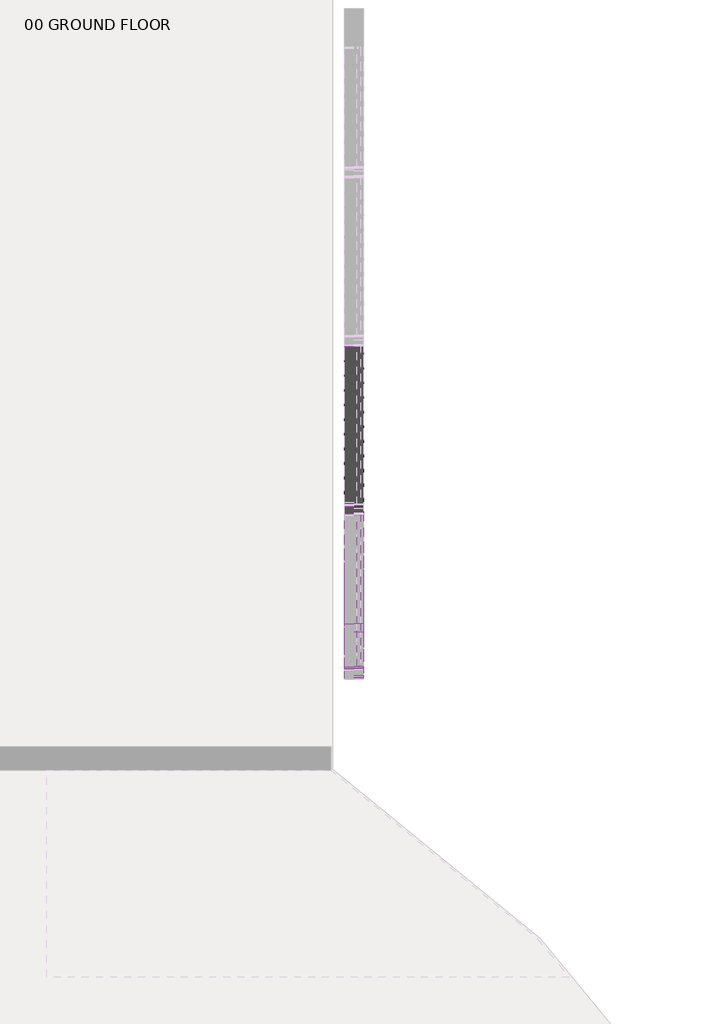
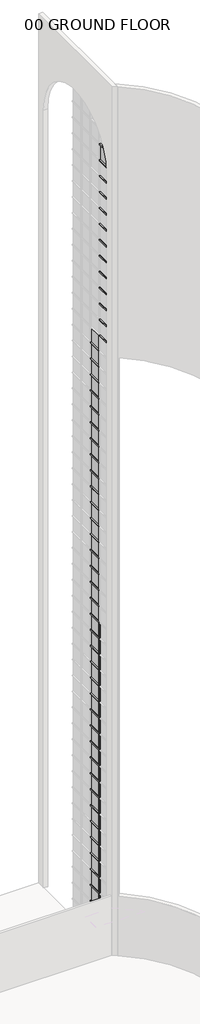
# One storey, part 25 of 33: 85 members, 39 plates.
"""IFC4 building model written with IfcOpenShell, lengths in millimetres."""

from ifc_helpers import new_model, si_unit, origin, place, context, project, spatial, transform, mapped, element, save
from components import member_c8ecf2e3, member_c70f70ef, member_d1490fb0, member_2b49869a, member_fd4924df, member_7098706b, member_828826df, member_4be9bcbc, member_914f3392, member_75074519, member_73c23c35, system_panel_glazed_c90b0923, system_panel_glazed_ba000c98, system_panel_glazed_06496461

model = new_model("IFC4")

# Units and contexts
model_context = context("Model", 3, world=origin())
ifc_project = project(units=[si_unit("LENGTHUNIT", "METRE", prefix="MILLI")], contexts=[model_context])

# Site, building, storey
site = spatial("IfcSite", under=ifc_project)
building = spatial("IfcBuilding", under=site)
storey = spatial("IfcBuildingStorey", under=building, Name="00 GROUND FLOOR", Elevation=0.0)

# Members
placement = place(None, origin())
member_shape = member_c8ecf2e3(model_context)
element("IfcMember", 1, ObjectType="Rectangular Mullion : 2.5\" x 5\" rectangular", at=placement, inside=storey, context=model_context, shape_type="MappedRepresentation", body=[
    mapped(member_shape, transform((44184.4050515, 26249.5392859, 0.0), x_axis=(0.0, 0.0, -1.0), y_axis=(-1.0, 0.0, 0.0), z_axis=(0.0, 1.0, 0.0))),
])
member_2_shape = member_c70f70ef(model_context)
element("IfcMember", 2, ObjectType="Rectangular Mullion : 2.5\" x 5\" rectangular", at=placement, inside=storey, context=model_context, shape_type="MappedRepresentation", body=[
    mapped(member_2_shape, transform((44184.4050515, 25212.675, 46329.6), x_axis=(0.0, 0.0, 1.0), y_axis=(-1.0, 0.0, 0.0), z_axis=(0.0, -1.0, 0.0))),
])
element("IfcMember", 3, ObjectType="Rectangular Mullion : 2.5\" x 5\" rectangular", at=placement, inside=storey, context=model_context, shape_type="MappedRepresentation", body=[
    mapped(member_2_shape, transform((44184.4050515, 25212.675, 47548.8), x_axis=(0.0, 0.0, 1.0), y_axis=(-1.0, 0.0, 0.0), z_axis=(0.0, -1.0, 0.0))),
])
element("IfcMember", 4, ObjectType="Rectangular Mullion : 2.5\" x 5\" rectangular", at=placement, inside=storey, context=model_context, shape_type="MappedRepresentation", body=[
    mapped(member_2_shape, transform((44184.4050515, 25212.675, 48768.0), x_axis=(0.0, 0.0, 1.0), y_axis=(-1.0, 0.0, 0.0), z_axis=(0.0, -1.0, 0.0))),
])
element("IfcMember", 5, ObjectType="Rectangular Mullion : 2.5\" x 5\" rectangular", at=placement, inside=storey, context=model_context, shape_type="MappedRepresentation", body=[
    mapped(member_2_shape, transform((44184.4050515, 25212.675, 49987.2), x_axis=(0.0, 0.0, 1.0), y_axis=(-1.0, 0.0, 0.0), z_axis=(0.0, -1.0, 0.0))),
])
element("IfcMember", 6, ObjectType="Rectangular Mullion : 2.5\" x 5\" rectangular", at=placement, inside=storey, context=model_context, shape_type="MappedRepresentation", body=[
    mapped(member_2_shape, transform((44184.4050515, 25212.675, 51206.4), x_axis=(0.0, 0.0, 1.0), y_axis=(-1.0, 0.0, 0.0), z_axis=(0.0, -1.0, 0.0))),
])
element("IfcMember", 7, ObjectType="Rectangular Mullion : 2.5\" x 5\" rectangular", at=placement, inside=storey, context=model_context, shape_type="MappedRepresentation", body=[
    mapped(member_2_shape, transform((44184.4050515, 25212.675, 52425.6), x_axis=(0.0, 0.0, 1.0), y_axis=(-1.0, 0.0, 0.0), z_axis=(0.0, -1.0, 0.0))),
])
element("IfcMember", 8, ObjectType="Rectangular Mullion : 2.5\" x 5\" rectangular", at=placement, inside=storey, context=model_context, shape_type="MappedRepresentation", body=[
    mapped(member_2_shape, transform((44184.4050515, 25212.675, 53644.8), x_axis=(0.0, 0.0, 1.0), y_axis=(-1.0, 0.0, 0.0), z_axis=(0.0, -1.0, 0.0))),
])
element("IfcMember", 9, ObjectType="Rectangular Mullion : 2.5\" x 5\" rectangular", at=placement, inside=storey, context=model_context, shape_type="MappedRepresentation", body=[
    mapped(member_2_shape, transform((44184.4050515, 25212.675, 54864.0), x_axis=(0.0, 0.0, 1.0), y_axis=(-1.0, 0.0, 0.0), z_axis=(0.0, -1.0, 0.0))),
])
element("IfcMember", 10, ObjectType="Rectangular Mullion : 2.5\" x 5\" rectangular", at=placement, inside=storey, context=model_context, shape_type="MappedRepresentation", body=[
    mapped(member_2_shape, transform((44184.4050515, 25212.675, 56083.2), x_axis=(0.0, 0.0, 1.0), y_axis=(-1.0, 0.0, 0.0), z_axis=(0.0, -1.0, 0.0))),
])
element("IfcMember", 11, ObjectType="Rectangular Mullion : 2.5\" x 5\" rectangular", at=placement, inside=storey, context=model_context, shape_type="MappedRepresentation", body=[
    mapped(member_2_shape, transform((44184.4050515, 25212.675, 57302.4), x_axis=(0.0, 0.0, 1.0), y_axis=(-1.0, 0.0, 0.0), z_axis=(0.0, -1.0, 0.0))),
])
element("IfcMember", 12, ObjectType="Rectangular Mullion : 2.5\" x 5\" rectangular", at=placement, inside=storey, context=model_context, shape_type="MappedRepresentation", body=[
    mapped(member_2_shape, transform((44184.4050515, 25212.675, 58521.6), x_axis=(0.0, 0.0, 1.0), y_axis=(-1.0, 0.0, 0.0), z_axis=(0.0, -1.0, 0.0))),
])
member_3_shape = member_d1490fb0(model_context)
element("IfcMember", 13, ObjectType="Rectangular Mullion : 2.5\" x 5\" rectangular", at=placement, inside=storey, context=model_context, shape_type="MappedRepresentation", body=[
    mapped(member_3_shape, transform((44184.4050515, 26313.0392859, 1219.2), x_axis=(0.0, 0.0, 1.0), y_axis=(-1.0, 0.0, 0.0), z_axis=(0.0, -1.0, 0.0))),
])
element("IfcMember", 14, ObjectType="Rectangular Mullion : 2.5\" x 5\" rectangular", at=placement, inside=storey, context=model_context, shape_type="MappedRepresentation", body=[
    mapped(member_3_shape, transform((44184.4050515, 26313.0392859, 2438.4), x_axis=(0.0, 0.0, 1.0), y_axis=(-1.0, 0.0, 0.0), z_axis=(0.0, -1.0, 0.0))),
])
element("IfcMember", 15, ObjectType="Rectangular Mullion : 2.5\" x 5\" rectangular", at=placement, inside=storey, context=model_context, shape_type="MappedRepresentation", body=[
    mapped(member_3_shape, transform((44184.4050515, 26313.0392859, 3657.6), x_axis=(0.0, 0.0, 1.0), y_axis=(-1.0, 0.0, 0.0), z_axis=(0.0, -1.0, 0.0))),
])
element("IfcMember", 16, ObjectType="Rectangular Mullion : 2.5\" x 5\" rectangular", at=placement, inside=storey, context=model_context, shape_type="MappedRepresentation", body=[
    mapped(member_3_shape, transform((44184.4050515, 26313.0392859, 4876.8), x_axis=(0.0, 0.0, 1.0), y_axis=(-1.0, 0.0, 0.0), z_axis=(0.0, -1.0, 0.0))),
])
element("IfcMember", 17, ObjectType="Rectangular Mullion : 2.5\" x 5\" rectangular", at=placement, inside=storey, context=model_context, shape_type="MappedRepresentation", body=[
    mapped(member_3_shape, transform((44184.4050515, 26313.0392859, 6096.0), x_axis=(0.0, 0.0, 1.0), y_axis=(-1.0, 0.0, 0.0), z_axis=(0.0, -1.0, 0.0))),
])
element("IfcMember", 18, ObjectType="Rectangular Mullion : 2.5\" x 5\" rectangular", at=placement, inside=storey, context=model_context, shape_type="MappedRepresentation", body=[
    mapped(member_3_shape, transform((44184.4050515, 26313.0392859, 7315.2), x_axis=(0.0, 0.0, 1.0), y_axis=(-1.0, 0.0, 0.0), z_axis=(0.0, -1.0, 0.0))),
])
element("IfcMember", 19, ObjectType="Rectangular Mullion : 2.5\" x 5\" rectangular", at=placement, inside=storey, context=model_context, shape_type="MappedRepresentation", body=[
    mapped(member_3_shape, transform((44184.4050515, 26313.0392859, 8534.4), x_axis=(0.0, 0.0, 1.0), y_axis=(-1.0, 0.0, 0.0), z_axis=(0.0, -1.0, 0.0))),
])
element("IfcMember", 20, ObjectType="Rectangular Mullion : 2.5\" x 5\" rectangular", at=placement, inside=storey, context=model_context, shape_type="MappedRepresentation", body=[
    mapped(member_3_shape, transform((44184.4050515, 26313.0392859, 9753.6), x_axis=(0.0, 0.0, 1.0), y_axis=(-1.0, 0.0, 0.0), z_axis=(0.0, -1.0, 0.0))),
])
element("IfcMember", 21, ObjectType="Rectangular Mullion : 2.5\" x 5\" rectangular", at=placement, inside=storey, context=model_context, shape_type="MappedRepresentation", body=[
    mapped(member_3_shape, transform((44184.4050515, 26313.0392859, 10972.8), x_axis=(0.0, 0.0, 1.0), y_axis=(-1.0, 0.0, 0.0), z_axis=(0.0, -1.0, 0.0))),
])
element("IfcMember", 22, ObjectType="Rectangular Mullion : 2.5\" x 5\" rectangular", at=placement, inside=storey, context=model_context, shape_type="MappedRepresentation", body=[
    mapped(member_3_shape, transform((44184.4050515, 26313.0392859, 12192.0), x_axis=(0.0, 0.0, 1.0), y_axis=(-1.0, 0.0, 0.0), z_axis=(0.0, -1.0, 0.0))),
])
element("IfcMember", 23, ObjectType="Rectangular Mullion : 2.5\" x 5\" rectangular", at=placement, inside=storey, context=model_context, shape_type="MappedRepresentation", body=[
    mapped(member_3_shape, transform((44184.4050515, 26313.0392859, 13411.2), x_axis=(0.0, 0.0, 1.0), y_axis=(-1.0, 0.0, 0.0), z_axis=(0.0, -1.0, 0.0))),
])
element("IfcMember", 24, ObjectType="Rectangular Mullion : 2.5\" x 5\" rectangular", at=placement, inside=storey, context=model_context, shape_type="MappedRepresentation", body=[
    mapped(member_3_shape, transform((44184.4050515, 26313.0392859, 14630.4), x_axis=(0.0, 0.0, 1.0), y_axis=(-1.0, 0.0, 0.0), z_axis=(0.0, -1.0, 0.0))),
])
element("IfcMember", 25, ObjectType="Rectangular Mullion : 2.5\" x 5\" rectangular", at=placement, inside=storey, context=model_context, shape_type="MappedRepresentation", body=[
    mapped(member_3_shape, transform((44184.4050515, 26313.0392859, 15849.6), x_axis=(0.0, 0.0, 1.0), y_axis=(-1.0, 0.0, 0.0), z_axis=(0.0, -1.0, 0.0))),
])
element("IfcMember", 26, ObjectType="Rectangular Mullion : 2.5\" x 5\" rectangular", at=placement, inside=storey, context=model_context, shape_type="MappedRepresentation", body=[
    mapped(member_3_shape, transform((44184.4050515, 26313.0392859, 17068.8), x_axis=(0.0, 0.0, 1.0), y_axis=(-1.0, 0.0, 0.0), z_axis=(0.0, -1.0, 0.0))),
])
element("IfcMember", 27, ObjectType="Rectangular Mullion : 2.5\" x 5\" rectangular", at=placement, inside=storey, context=model_context, shape_type="MappedRepresentation", body=[
    mapped(member_3_shape, transform((44184.4050515, 26313.0392859, 18288.0), x_axis=(0.0, 0.0, 1.0), y_axis=(-1.0, 0.0, 0.0), z_axis=(0.0, -1.0, 0.0))),
])
element("IfcMember", 28, ObjectType="Rectangular Mullion : 2.5\" x 5\" rectangular", at=placement, inside=storey, context=model_context, shape_type="MappedRepresentation", body=[
    mapped(member_3_shape, transform((44184.4050515, 26313.0392859, 19507.2), x_axis=(0.0, 0.0, 1.0), y_axis=(-1.0, 0.0, 0.0), z_axis=(0.0, -1.0, 0.0))),
])
element("IfcMember", 29, ObjectType="Rectangular Mullion : 2.5\" x 5\" rectangular", at=placement, inside=storey, context=model_context, shape_type="MappedRepresentation", body=[
    mapped(member_3_shape, transform((44184.4050515, 26313.0392859, 20726.4), x_axis=(0.0, 0.0, 1.0), y_axis=(-1.0, 0.0, 0.0), z_axis=(0.0, -1.0, 0.0))),
])
element("IfcMember", 30, ObjectType="Rectangular Mullion : 2.5\" x 5\" rectangular", at=placement, inside=storey, context=model_context, shape_type="MappedRepresentation", body=[
    mapped(member_3_shape, transform((44184.4050515, 26313.0392859, 21945.6), x_axis=(0.0, 0.0, 1.0), y_axis=(-1.0, 0.0, 0.0), z_axis=(0.0, -1.0, 0.0))),
])
element("IfcMember", 31, ObjectType="Rectangular Mullion : 2.5\" x 5\" rectangular", at=placement, inside=storey, context=model_context, shape_type="MappedRepresentation", body=[
    mapped(member_3_shape, transform((44184.4050515, 26313.0392859, 23164.8), x_axis=(0.0, 0.0, 1.0), y_axis=(-1.0, 0.0, 0.0), z_axis=(0.0, -1.0, 0.0))),
])
element("IfcMember", 32, ObjectType="Rectangular Mullion : 2.5\" x 5\" rectangular", at=placement, inside=storey, context=model_context, shape_type="MappedRepresentation", body=[
    mapped(member_3_shape, transform((44184.4050515, 26313.0392859, 24384.0), x_axis=(0.0, 0.0, 1.0), y_axis=(-1.0, 0.0, 0.0), z_axis=(0.0, -1.0, 0.0))),
])
element("IfcMember", 33, ObjectType="Rectangular Mullion : 2.5\" x 5\" rectangular", at=placement, inside=storey, context=model_context, shape_type="MappedRepresentation", body=[
    mapped(member_3_shape, transform((44184.4050515, 26313.0392859, 25603.2), x_axis=(0.0, 0.0, 1.0), y_axis=(-1.0, 0.0, 0.0), z_axis=(0.0, -1.0, 0.0))),
])
element("IfcMember", 34, ObjectType="Rectangular Mullion : 2.5\" x 5\" rectangular", at=placement, inside=storey, context=model_context, shape_type="MappedRepresentation", body=[
    mapped(member_3_shape, transform((44184.4050515, 26313.0392859, 26822.4), x_axis=(0.0, 0.0, 1.0), y_axis=(-1.0, 0.0, 0.0), z_axis=(0.0, -1.0, 0.0))),
])
element("IfcMember", 35, ObjectType="Rectangular Mullion : 2.5\" x 5\" rectangular", at=placement, inside=storey, context=model_context, shape_type="MappedRepresentation", body=[
    mapped(member_3_shape, transform((44184.4050515, 26313.0392859, 28041.6), x_axis=(0.0, 0.0, 1.0), y_axis=(-1.0, 0.0, 0.0), z_axis=(0.0, -1.0, 0.0))),
])
element("IfcMember", 36, ObjectType="Rectangular Mullion : 2.5\" x 5\" rectangular", at=placement, inside=storey, context=model_context, shape_type="MappedRepresentation", body=[
    mapped(member_3_shape, transform((44184.4050515, 26313.0392859, 29260.8), x_axis=(0.0, 0.0, 1.0), y_axis=(-1.0, 0.0, 0.0), z_axis=(0.0, -1.0, 0.0))),
])
element("IfcMember", 37, ObjectType="Rectangular Mullion : 2.5\" x 5\" rectangular", at=placement, inside=storey, context=model_context, shape_type="MappedRepresentation", body=[
    mapped(member_3_shape, transform((44184.4050515, 26313.0392859, 30480.0), x_axis=(0.0, 0.0, 1.0), y_axis=(-1.0, 0.0, 0.0), z_axis=(0.0, -1.0, 0.0))),
])
element("IfcMember", 38, ObjectType="Rectangular Mullion : 2.5\" x 5\" rectangular", at=placement, inside=storey, context=model_context, shape_type="MappedRepresentation", body=[
    mapped(member_3_shape, transform((44184.4050515, 26313.0392859, 31699.2), x_axis=(0.0, 0.0, 1.0), y_axis=(-1.0, 0.0, 0.0), z_axis=(0.0, -1.0, 0.0))),
])
element("IfcMember", 39, ObjectType="Rectangular Mullion : 2.5\" x 5\" rectangular", at=placement, inside=storey, context=model_context, shape_type="MappedRepresentation", body=[
    mapped(member_3_shape, transform((44184.4050515, 26313.0392859, 32918.4), x_axis=(0.0, 0.0, 1.0), y_axis=(-1.0, 0.0, 0.0), z_axis=(0.0, -1.0, 0.0))),
])
element("IfcMember", 40, ObjectType="Rectangular Mullion : 2.5\" x 5\" rectangular", at=placement, inside=storey, context=model_context, shape_type="MappedRepresentation", body=[
    mapped(member_3_shape, transform((44184.4050515, 26313.0392859, 34137.6), x_axis=(0.0, 0.0, 1.0), y_axis=(-1.0, 0.0, 0.0), z_axis=(0.0, -1.0, 0.0))),
])
element("IfcMember", 41, ObjectType="Rectangular Mullion : 2.5\" x 5\" rectangular", at=placement, inside=storey, context=model_context, shape_type="MappedRepresentation", body=[
    mapped(member_3_shape, transform((44184.4050515, 26313.0392859, 35356.8), x_axis=(0.0, 0.0, 1.0), y_axis=(-1.0, 0.0, 0.0), z_axis=(0.0, -1.0, 0.0))),
])
element("IfcMember", 42, ObjectType="Rectangular Mullion : 2.5\" x 5\" rectangular", at=placement, inside=storey, context=model_context, shape_type="MappedRepresentation", body=[
    mapped(member_3_shape, transform((44184.4050515, 26313.0392859, 36576.0), x_axis=(0.0, 0.0, 1.0), y_axis=(-1.0, 0.0, 0.0), z_axis=(0.0, -1.0, 0.0))),
])
element("IfcMember", 43, ObjectType="Rectangular Mullion : 2.5\" x 5\" rectangular", at=placement, inside=storey, context=model_context, shape_type="MappedRepresentation", body=[
    mapped(member_3_shape, transform((44184.4050515, 26313.0392859, 37795.2), x_axis=(0.0, 0.0, 1.0), y_axis=(-1.0, 0.0, 0.0), z_axis=(0.0, -1.0, 0.0))),
])
element("IfcMember", 44, ObjectType="Rectangular Mullion : 2.5\" x 5\" rectangular", at=placement, inside=storey, context=model_context, shape_type="MappedRepresentation", body=[
    mapped(member_3_shape, transform((44184.4050515, 26313.0392859, 39014.4), x_axis=(0.0, 0.0, 1.0), y_axis=(-1.0, 0.0, 0.0), z_axis=(0.0, -1.0, 0.0))),
])
element("IfcMember", 45, ObjectType="Rectangular Mullion : 2.5\" x 5\" rectangular", at=placement, inside=storey, context=model_context, shape_type="MappedRepresentation", body=[
    mapped(member_3_shape, transform((44184.4050515, 26313.0392859, 40233.6), x_axis=(0.0, 0.0, 1.0), y_axis=(-1.0, 0.0, 0.0), z_axis=(0.0, -1.0, 0.0))),
])
element("IfcMember", 46, ObjectType="Rectangular Mullion : 2.5\" x 5\" rectangular", at=placement, inside=storey, context=model_context, shape_type="MappedRepresentation", body=[
    mapped(member_3_shape, transform((44184.4050515, 26313.0392859, 41452.8), x_axis=(0.0, 0.0, 1.0), y_axis=(-1.0, 0.0, 0.0), z_axis=(0.0, -1.0, 0.0))),
])
element("IfcMember", 47, ObjectType="Rectangular Mullion : 2.5\" x 5\" rectangular", at=placement, inside=storey, context=model_context, shape_type="MappedRepresentation", body=[
    mapped(member_3_shape, transform((44184.4050515, 26313.0392859, 42672.0), x_axis=(0.0, 0.0, 1.0), y_axis=(-1.0, 0.0, 0.0), z_axis=(0.0, -1.0, 0.0))),
])
element("IfcMember", 48, ObjectType="Rectangular Mullion : 2.5\" x 5\" rectangular", at=placement, inside=storey, context=model_context, shape_type="MappedRepresentation", body=[
    mapped(member_3_shape, transform((44184.4050515, 26313.0392859, 43891.2), x_axis=(0.0, 0.0, 1.0), y_axis=(-1.0, 0.0, 0.0), z_axis=(0.0, -1.0, 0.0))),
])
element("IfcMember", 49, ObjectType="Rectangular Mullion : 2.5\" x 5\" rectangular", at=placement, inside=storey, context=model_context, shape_type="MappedRepresentation", body=[
    mapped(member_3_shape, transform((44184.4050515, 26313.0392859, 45110.4), x_axis=(0.0, 0.0, 1.0), y_axis=(-1.0, 0.0, 0.0), z_axis=(0.0, -1.0, 0.0))),
])
member_4_shape = member_2b49869a(model_context)
element("IfcMember", 50, ObjectType="Rectangular Mullion : 2.5\" x 5\" rectangular", at=placement, inside=storey, context=model_context, shape_type="MappedRepresentation", body=[
    mapped(member_4_shape, transform((44184.4050515, 26281.2892859, 0.0), x_axis=(0.0, -1.0, 0.0), y_axis=(-1.0, 0.0, 0.0), z_axis=(0.0, 0.0, -1.0))),
])
element("IfcMember", 51, ObjectType="Rectangular Mullion : 2.5\" x 5\" rectangular", at=placement, inside=storey, context=model_context, shape_type="MappedRepresentation", body=[
    mapped(member_4_shape, transform((44184.4050515, 26281.2892859, 1219.2), x_axis=(0.0, -1.0, 0.0), y_axis=(-1.0, 0.0, 0.0), z_axis=(0.0, 0.0, -1.0))),
])
element("IfcMember", 52, ObjectType="Rectangular Mullion : 2.5\" x 5\" rectangular", at=placement, inside=storey, context=model_context, shape_type="MappedRepresentation", body=[
    mapped(member_4_shape, transform((44184.4050515, 26281.2892859, 2438.4), x_axis=(0.0, -1.0, 0.0), y_axis=(-1.0, 0.0, 0.0), z_axis=(0.0, 0.0, -1.0))),
])
element("IfcMember", 53, ObjectType="Rectangular Mullion : 2.5\" x 5\" rectangular", at=placement, inside=storey, context=model_context, shape_type="MappedRepresentation", body=[
    mapped(member_4_shape, transform((44184.4050515, 26281.2892859, 3657.6), x_axis=(0.0, -1.0, 0.0), y_axis=(-1.0, 0.0, 0.0), z_axis=(0.0, 0.0, -1.0))),
])
element("IfcMember", 54, ObjectType="Rectangular Mullion : 2.5\" x 5\" rectangular", at=placement, inside=storey, context=model_context, shape_type="MappedRepresentation", body=[
    mapped(member_4_shape, transform((44184.4050515, 26281.2892859, 4876.8), x_axis=(0.0, -1.0, 0.0), y_axis=(-1.0, 0.0, 0.0), z_axis=(0.0, 0.0, -1.0))),
])
element("IfcMember", 55, ObjectType="Rectangular Mullion : 2.5\" x 5\" rectangular", at=placement, inside=storey, context=model_context, shape_type="MappedRepresentation", body=[
    mapped(member_4_shape, transform((44184.4050515, 26281.2892859, 6096.0), x_axis=(0.0, -1.0, 0.0), y_axis=(-1.0, 0.0, 0.0), z_axis=(0.0, 0.0, -1.0))),
])
element("IfcMember", 56, ObjectType="Rectangular Mullion : 2.5\" x 5\" rectangular", at=placement, inside=storey, context=model_context, shape_type="MappedRepresentation", body=[
    mapped(member_4_shape, transform((44184.4050515, 26281.2892859, 7315.2), x_axis=(0.0, -1.0, 0.0), y_axis=(-1.0, 0.0, 0.0), z_axis=(0.0, 0.0, -1.0))),
])
element("IfcMember", 57, ObjectType="Rectangular Mullion : 2.5\" x 5\" rectangular", at=placement, inside=storey, context=model_context, shape_type="MappedRepresentation", body=[
    mapped(member_4_shape, transform((44184.4050515, 26281.2892859, 8534.4), x_axis=(0.0, -1.0, 0.0), y_axis=(-1.0, 0.0, 0.0), z_axis=(0.0, 0.0, -1.0))),
])
element("IfcMember", 58, ObjectType="Rectangular Mullion : 2.5\" x 5\" rectangular", at=placement, inside=storey, context=model_context, shape_type="MappedRepresentation", body=[
    mapped(member_4_shape, transform((44184.4050515, 26281.2892859, 9753.6), x_axis=(0.0, -1.0, 0.0), y_axis=(-1.0, 0.0, 0.0), z_axis=(0.0, 0.0, -1.0))),
])
element("IfcMember", 59, ObjectType="Rectangular Mullion : 2.5\" x 5\" rectangular", at=placement, inside=storey, context=model_context, shape_type="MappedRepresentation", body=[
    mapped(member_4_shape, transform((44184.4050515, 26281.2892859, 10972.8), x_axis=(0.0, -1.0, 0.0), y_axis=(-1.0, 0.0, 0.0), z_axis=(0.0, 0.0, -1.0))),
])
element("IfcMember", 60, ObjectType="Rectangular Mullion : 2.5\" x 5\" rectangular", at=placement, inside=storey, context=model_context, shape_type="MappedRepresentation", body=[
    mapped(member_4_shape, transform((44184.4050515, 26281.2892859, 12192.0), x_axis=(0.0, -1.0, 0.0), y_axis=(-1.0, 0.0, 0.0), z_axis=(0.0, 0.0, -1.0))),
])
element("IfcMember", 61, ObjectType="Rectangular Mullion : 2.5\" x 5\" rectangular", at=placement, inside=storey, context=model_context, shape_type="MappedRepresentation", body=[
    mapped(member_4_shape, transform((44184.4050515, 26281.2892859, 13411.2), x_axis=(0.0, -1.0, 0.0), y_axis=(-1.0, 0.0, 0.0), z_axis=(0.0, 0.0, -1.0))),
])
element("IfcMember", 62, ObjectType="Rectangular Mullion : 2.5\" x 5\" rectangular", at=placement, inside=storey, context=model_context, shape_type="MappedRepresentation", body=[
    mapped(member_4_shape, transform((44184.4050515, 26281.2892859, 14630.4), x_axis=(0.0, -1.0, 0.0), y_axis=(-1.0, 0.0, 0.0), z_axis=(0.0, 0.0, -1.0))),
])
element("IfcMember", 63, ObjectType="Rectangular Mullion : 2.5\" x 5\" rectangular", at=placement, inside=storey, context=model_context, shape_type="MappedRepresentation", body=[
    mapped(member_4_shape, transform((44184.4050515, 26281.2892859, 15849.6), x_axis=(0.0, -1.0, 0.0), y_axis=(-1.0, 0.0, 0.0), z_axis=(0.0, 0.0, -1.0))),
])
element("IfcMember", 64, ObjectType="Rectangular Mullion : 2.5\" x 5\" rectangular", at=placement, inside=storey, context=model_context, shape_type="MappedRepresentation", body=[
    mapped(member_4_shape, transform((44184.4050515, 26281.2892859, 17068.8), x_axis=(0.0, -1.0, 0.0), y_axis=(-1.0, 0.0, 0.0), z_axis=(0.0, 0.0, -1.0))),
])
element("IfcMember", 65, ObjectType="Rectangular Mullion : 2.5\" x 5\" rectangular", at=placement, inside=storey, context=model_context, shape_type="MappedRepresentation", body=[
    mapped(member_4_shape, transform((44184.4050515, 26281.2892859, 18288.0), x_axis=(0.0, -1.0, 0.0), y_axis=(-1.0, 0.0, 0.0), z_axis=(0.0, 0.0, -1.0))),
])
element("IfcMember", 66, ObjectType="Rectangular Mullion : 2.5\" x 5\" rectangular", at=placement, inside=storey, context=model_context, shape_type="MappedRepresentation", body=[
    mapped(member_4_shape, transform((44184.4050515, 26281.2892859, 19507.2), x_axis=(0.0, -1.0, 0.0), y_axis=(-1.0, 0.0, 0.0), z_axis=(0.0, 0.0, -1.0))),
])
element("IfcMember", 67, ObjectType="Rectangular Mullion : 2.5\" x 5\" rectangular", at=placement, inside=storey, context=model_context, shape_type="MappedRepresentation", body=[
    mapped(member_4_shape, transform((44184.4050515, 26281.2892859, 20726.4), x_axis=(0.0, -1.0, 0.0), y_axis=(-1.0, 0.0, 0.0), z_axis=(0.0, 0.0, -1.0))),
])
element("IfcMember", 68, ObjectType="Rectangular Mullion : 2.5\" x 5\" rectangular", at=placement, inside=storey, context=model_context, shape_type="MappedRepresentation", body=[
    mapped(member_4_shape, transform((44184.4050515, 26281.2892859, 21945.6), x_axis=(0.0, -1.0, 0.0), y_axis=(-1.0, 0.0, 0.0), z_axis=(0.0, 0.0, -1.0))),
])
element("IfcMember", 69, ObjectType="Rectangular Mullion : 2.5\" x 5\" rectangular", at=placement, inside=storey, context=model_context, shape_type="MappedRepresentation", body=[
    mapped(member_4_shape, transform((44184.4050515, 26281.2892859, 23164.8), x_axis=(0.0, -1.0, 0.0), y_axis=(-1.0, 0.0, 0.0), z_axis=(0.0, 0.0, -1.0))),
])
member_5_shape = member_fd4924df(model_context)
element("IfcMember", 70, ObjectType="Rectangular Mullion : 2.5\" x 5\" rectangular", at=placement, inside=storey, context=model_context, shape_type="MappedRepresentation", body=[
    mapped(member_5_shape, transform((44184.4050515, 25149.175, 59436.0), x_axis=(0.0, -1.0, 0.0), y_axis=(-1.0, 0.0, 0.0), z_axis=(0.0, 0.0, -1.0))),
])
member_6_shape = member_7098706b(model_context)
element("IfcMember", 71, ObjectType="Rectangular Mullion : 2.5\" x 5\" rectangular", at=placement, inside=storey, context=model_context, shape_type="MappedRepresentation", body=[
    mapped(member_6_shape, transform((44184.4050515, 25160.9154703, 59740.8), x_axis=(0.0, -0.9970370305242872, 0.0769230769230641), y_axis=(-1.0, 0.0, 0.0), z_axis=(0.0, -0.0769230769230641, -0.9970370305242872))),
])
member_7_shape = member_828826df(model_context)
element("IfcMember", 72, ObjectType="Rectangular Mullion : 2.5\" x 5\" rectangular", at=placement, inside=storey, context=model_context, shape_type="MappedRepresentation", body=[
    mapped(member_7_shape, transform((44184.4050515, 25453.975, 60960.0), x_axis=(0.0, -0.9230769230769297, 0.3846153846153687), y_axis=(-1.0, 0.0, 0.0), z_axis=(0.0, -0.3846153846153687, -0.9230769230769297))),
])
member_8_shape = member_4be9bcbc(model_context)
element("IfcMember", 73, ObjectType="Rectangular Mullion : 2.5\" x 5\" rectangular", at=placement, inside=storey, context=model_context, shape_type="MappedRepresentation", body=[
    mapped(member_8_shape, transform((44184.4050515, 25160.9154703, 59740.8), x_axis=(0.0, 0.0, 1.0), y_axis=(-1.0, 0.0, 0.0), z_axis=(0.0, -1.0, 0.0))),
])
member_9_shape = member_914f3392(model_context)
element("IfcMember", 74, ObjectType="Rectangular Mullion : 2.5\" x 5\" rectangular", at=placement, inside=storey, context=model_context, shape_type="MappedRepresentation", body=[
    mapped(member_9_shape, transform((44184.4050515, 25453.975, 60960.0), x_axis=(0.0, 0.0, 1.0), y_axis=(-1.0, 0.0, 0.0), z_axis=(0.0, -1.0, 0.0))),
])
member_10_shape = member_75074519(model_context)
element("IfcMember", 75, ObjectType="Rectangular Mullion : 2.5\" x 5\" rectangular", at=placement, inside=storey, context=model_context, shape_type="MappedRepresentation", body=[
    mapped(member_10_shape, transform((44184.4050515, 25149.175, 46329.6), x_axis=(0.0, -1.0, 0.0), y_axis=(-1.0, 0.0, 0.0), z_axis=(0.0, 0.0, -1.0))),
])
element("IfcMember", 76, ObjectType="Rectangular Mullion : 2.5\" x 5\" rectangular", at=placement, inside=storey, context=model_context, shape_type="MappedRepresentation", body=[
    mapped(member_10_shape, transform((44184.4050515, 25149.175, 47548.8), x_axis=(0.0, -1.0, 0.0), y_axis=(-1.0, 0.0, 0.0), z_axis=(0.0, 0.0, -1.0))),
])
element("IfcMember", 77, ObjectType="Rectangular Mullion : 2.5\" x 5\" rectangular", at=placement, inside=storey, context=model_context, shape_type="MappedRepresentation", body=[
    mapped(member_10_shape, transform((44184.4050515, 25149.175, 48768.0), x_axis=(0.0, -1.0, 0.0), y_axis=(-1.0, 0.0, 0.0), z_axis=(0.0, 0.0, -1.0))),
])
element("IfcMember", 78, ObjectType="Rectangular Mullion : 2.5\" x 5\" rectangular", at=placement, inside=storey, context=model_context, shape_type="MappedRepresentation", body=[
    mapped(member_10_shape, transform((44184.4050515, 25149.175, 49987.2), x_axis=(0.0, -1.0, 0.0), y_axis=(-1.0, 0.0, 0.0), z_axis=(0.0, 0.0, -1.0))),
])
element("IfcMember", 79, ObjectType="Rectangular Mullion : 2.5\" x 5\" rectangular", at=placement, inside=storey, context=model_context, shape_type="MappedRepresentation", body=[
    mapped(member_10_shape, transform((44184.4050515, 25149.175, 51206.4), x_axis=(0.0, -1.0, 0.0), y_axis=(-1.0, 0.0, 0.0), z_axis=(0.0, 0.0, -1.0))),
])
element("IfcMember", 80, ObjectType="Rectangular Mullion : 2.5\" x 5\" rectangular", at=placement, inside=storey, context=model_context, shape_type="MappedRepresentation", body=[
    mapped(member_10_shape, transform((44184.4050515, 25149.175, 52425.6), x_axis=(0.0, -1.0, 0.0), y_axis=(-1.0, 0.0, 0.0), z_axis=(0.0, 0.0, -1.0))),
])
element("IfcMember", 81, ObjectType="Rectangular Mullion : 2.5\" x 5\" rectangular", at=placement, inside=storey, context=model_context, shape_type="MappedRepresentation", body=[
    mapped(member_10_shape, transform((44184.4050515, 25149.175, 53644.8), x_axis=(0.0, -1.0, 0.0), y_axis=(-1.0, 0.0, 0.0), z_axis=(0.0, 0.0, -1.0))),
])
element("IfcMember", 82, ObjectType="Rectangular Mullion : 2.5\" x 5\" rectangular", at=placement, inside=storey, context=model_context, shape_type="MappedRepresentation", body=[
    mapped(member_10_shape, transform((44184.4050515, 25149.175, 54864.0), x_axis=(0.0, -1.0, 0.0), y_axis=(-1.0, 0.0, 0.0), z_axis=(0.0, 0.0, -1.0))),
])
element("IfcMember", 83, ObjectType="Rectangular Mullion : 2.5\" x 5\" rectangular", at=placement, inside=storey, context=model_context, shape_type="MappedRepresentation", body=[
    mapped(member_10_shape, transform((44184.4050515, 25149.175, 56083.2), x_axis=(0.0, -1.0, 0.0), y_axis=(-1.0, 0.0, 0.0), z_axis=(0.0, 0.0, -1.0))),
])
element("IfcMember", 84, ObjectType="Rectangular Mullion : 2.5\" x 5\" rectangular", at=placement, inside=storey, context=model_context, shape_type="MappedRepresentation", body=[
    mapped(member_10_shape, transform((44184.4050515, 25149.175, 57302.4), x_axis=(0.0, -1.0, 0.0), y_axis=(-1.0, 0.0, 0.0), z_axis=(0.0, 0.0, -1.0))),
])
member_11_shape = member_73c23c35(model_context)
element("IfcMember", 85, ObjectType="Rectangular Mullion : 2.5\" x 5\" rectangular", at=placement, inside=storey, context=model_context, shape_type="MappedRepresentation", body=[
    mapped(member_11_shape, transform((44184.4050515, 25149.175, 58521.6), x_axis=(0.0, -1.0, 0.0), y_axis=(-1.0, 0.0, 0.0), z_axis=(0.0, 0.0, -1.0))),
])

# Plates
system_panel_glazed_shape = system_panel_glazed_c90b0923(model_context)
element("IfcPlate", 86, ObjectType="System Panel : Glazed", at=placement, inside=storey, context=model_context, shape_type="MappedRepresentation", body=[
    mapped(system_panel_glazed_shape, transform((44184.4050515, 26847.3464287, 63.5), x_axis=(0.0, -1.0, 0.0), y_axis=(1.0, 0.0, 0.0), z_axis=(0.0, 0.0, 1.0))),
])
system_panel_glazed_2_shape = system_panel_glazed_ba000c98(model_context)
element("IfcPlate", 87, ObjectType="System Panel : Glazed", at=placement, inside=storey, context=model_context, shape_type="MappedRepresentation", body=[
    mapped(system_panel_glazed_2_shape, transform((44184.4050515, 26847.3464287, 1250.95), x_axis=(0.0, -1.0, 0.0), y_axis=(1.0, 0.0, 0.0), z_axis=(0.0, 0.0, 1.0))),
])
element("IfcPlate", 88, ObjectType="System Panel : Glazed", at=placement, inside=storey, context=model_context, shape_type="MappedRepresentation", body=[
    mapped(system_panel_glazed_2_shape, transform((44184.4050515, 26847.3464287, 2470.15), x_axis=(0.0, -1.0, 0.0), y_axis=(1.0, 0.0, 0.0), z_axis=(0.0, 0.0, 1.0))),
])
element("IfcPlate", 89, ObjectType="System Panel : Glazed", at=placement, inside=storey, context=model_context, shape_type="MappedRepresentation", body=[
    mapped(system_panel_glazed_2_shape, transform((44184.4050515, 26847.3464287, 3689.35), x_axis=(0.0, -1.0, 0.0), y_axis=(1.0, 0.0, 0.0), z_axis=(0.0, 0.0, 1.0))),
])
element("IfcPlate", 90, ObjectType="System Panel : Glazed", at=placement, inside=storey, context=model_context, shape_type="MappedRepresentation", body=[
    mapped(system_panel_glazed_2_shape, transform((44184.4050515, 26847.3464287, 4908.55), x_axis=(0.0, -1.0, 0.0), y_axis=(1.0, 0.0, 0.0), z_axis=(0.0, 0.0, 1.0))),
])
element("IfcPlate", 91, ObjectType="System Panel : Glazed", at=placement, inside=storey, context=model_context, shape_type="MappedRepresentation", body=[
    mapped(system_panel_glazed_2_shape, transform((44184.4050515, 26847.3464287, 6127.75), x_axis=(0.0, -1.0, 0.0), y_axis=(1.0, 0.0, 0.0), z_axis=(0.0, 0.0, 1.0))),
])
element("IfcPlate", 92, ObjectType="System Panel : Glazed", at=placement, inside=storey, context=model_context, shape_type="MappedRepresentation", body=[
    mapped(system_panel_glazed_2_shape, transform((44184.4050515, 26847.3464287, 7346.95), x_axis=(0.0, -1.0, 0.0), y_axis=(1.0, 0.0, 0.0), z_axis=(0.0, 0.0, 1.0))),
])
element("IfcPlate", 93, ObjectType="System Panel : Glazed", at=placement, inside=storey, context=model_context, shape_type="MappedRepresentation", body=[
    mapped(system_panel_glazed_2_shape, transform((44184.4050515, 26847.3464287, 8566.15), x_axis=(0.0, -1.0, 0.0), y_axis=(1.0, 0.0, 0.0), z_axis=(0.0, 0.0, 1.0))),
])
element("IfcPlate", 94, ObjectType="System Panel : Glazed", at=placement, inside=storey, context=model_context, shape_type="MappedRepresentation", body=[
    mapped(system_panel_glazed_2_shape, transform((44184.4050515, 26847.3464287, 9785.35), x_axis=(0.0, -1.0, 0.0), y_axis=(1.0, 0.0, 0.0), z_axis=(0.0, 0.0, 1.0))),
])
element("IfcPlate", 95, ObjectType="System Panel : Glazed", at=placement, inside=storey, context=model_context, shape_type="MappedRepresentation", body=[
    mapped(system_panel_glazed_2_shape, transform((44184.4050515, 26847.3464287, 11004.55), x_axis=(0.0, -1.0, 0.0), y_axis=(1.0, 0.0, 0.0), z_axis=(0.0, 0.0, 1.0))),
])
element("IfcPlate", 96, ObjectType="System Panel : Glazed", at=placement, inside=storey, context=model_context, shape_type="MappedRepresentation", body=[
    mapped(system_panel_glazed_2_shape, transform((44184.4050515, 26847.3464287, 12223.75), x_axis=(0.0, -1.0, 0.0), y_axis=(1.0, 0.0, 0.0), z_axis=(0.0, 0.0, 1.0))),
])
element("IfcPlate", 97, ObjectType="System Panel : Glazed", at=placement, inside=storey, context=model_context, shape_type="MappedRepresentation", body=[
    mapped(system_panel_glazed_2_shape, transform((44184.4050515, 26847.3464287, 13442.95), x_axis=(0.0, -1.0, 0.0), y_axis=(1.0, 0.0, 0.0), z_axis=(0.0, 0.0, 1.0))),
])
element("IfcPlate", 98, ObjectType="System Panel : Glazed", at=placement, inside=storey, context=model_context, shape_type="MappedRepresentation", body=[
    mapped(system_panel_glazed_2_shape, transform((44184.4050515, 26847.3464287, 14662.15), x_axis=(0.0, -1.0, 0.0), y_axis=(1.0, 0.0, 0.0), z_axis=(0.0, 0.0, 1.0))),
])
element("IfcPlate", 99, ObjectType="System Panel : Glazed", at=placement, inside=storey, context=model_context, shape_type="MappedRepresentation", body=[
    mapped(system_panel_glazed_2_shape, transform((44184.4050515, 26847.3464287, 15881.35), x_axis=(0.0, -1.0, 0.0), y_axis=(1.0, 0.0, 0.0), z_axis=(0.0, 0.0, 1.0))),
])
element("IfcPlate", 100, ObjectType="System Panel : Glazed", at=placement, inside=storey, context=model_context, shape_type="MappedRepresentation", body=[
    mapped(system_panel_glazed_2_shape, transform((44184.4050515, 26847.3464287, 17100.55), x_axis=(0.0, -1.0, 0.0), y_axis=(1.0, 0.0, 0.0), z_axis=(0.0, 0.0, 1.0))),
])
element("IfcPlate", 101, ObjectType="System Panel : Glazed", at=placement, inside=storey, context=model_context, shape_type="MappedRepresentation", body=[
    mapped(system_panel_glazed_2_shape, transform((44184.4050515, 26847.3464287, 18319.75), x_axis=(0.0, -1.0, 0.0), y_axis=(1.0, 0.0, 0.0), z_axis=(0.0, 0.0, 1.0))),
])
element("IfcPlate", 102, ObjectType="System Panel : Glazed", at=placement, inside=storey, context=model_context, shape_type="MappedRepresentation", body=[
    mapped(system_panel_glazed_2_shape, transform((44184.4050515, 26847.3464287, 19538.95), x_axis=(0.0, -1.0, 0.0), y_axis=(1.0, 0.0, 0.0), z_axis=(0.0, 0.0, 1.0))),
])
element("IfcPlate", 103, ObjectType="System Panel : Glazed", at=placement, inside=storey, context=model_context, shape_type="MappedRepresentation", body=[
    mapped(system_panel_glazed_2_shape, transform((44184.4050515, 26847.3464287, 20758.15), x_axis=(0.0, -1.0, 0.0), y_axis=(1.0, 0.0, 0.0), z_axis=(0.0, 0.0, 1.0))),
])
element("IfcPlate", 104, ObjectType="System Panel : Glazed", at=placement, inside=storey, context=model_context, shape_type="MappedRepresentation", body=[
    mapped(system_panel_glazed_2_shape, transform((44184.4050515, 26847.3464287, 21977.35), x_axis=(0.0, -1.0, 0.0), y_axis=(1.0, 0.0, 0.0), z_axis=(0.0, 0.0, 1.0))),
])
element("IfcPlate", 105, ObjectType="System Panel : Glazed", at=placement, inside=storey, context=model_context, shape_type="MappedRepresentation", body=[
    mapped(system_panel_glazed_2_shape, transform((44184.4050515, 26847.3464287, 23196.55), x_axis=(0.0, -1.0, 0.0), y_axis=(1.0, 0.0, 0.0), z_axis=(0.0, 0.0, 1.0))),
])
element("IfcPlate", 106, ObjectType="System Panel : Glazed", at=placement, inside=storey, context=model_context, shape_type="MappedRepresentation", body=[
    mapped(system_panel_glazed_2_shape, transform((44184.4050515, 26847.3464287, 24415.75), x_axis=(0.0, -1.0, 0.0), y_axis=(1.0, 0.0, 0.0), z_axis=(0.0, 0.0, 1.0))),
])
element("IfcPlate", 107, ObjectType="System Panel : Glazed", at=placement, inside=storey, context=model_context, shape_type="MappedRepresentation", body=[
    mapped(system_panel_glazed_2_shape, transform((44184.4050515, 26847.3464287, 25634.95), x_axis=(0.0, -1.0, 0.0), y_axis=(1.0, 0.0, 0.0), z_axis=(0.0, 0.0, 1.0))),
])
element("IfcPlate", 108, ObjectType="System Panel : Glazed", at=placement, inside=storey, context=model_context, shape_type="MappedRepresentation", body=[
    mapped(system_panel_glazed_2_shape, transform((44184.4050515, 26847.3464287, 26854.15), x_axis=(0.0, -1.0, 0.0), y_axis=(1.0, 0.0, 0.0), z_axis=(0.0, 0.0, 1.0))),
])
element("IfcPlate", 109, ObjectType="System Panel : Glazed", at=placement, inside=storey, context=model_context, shape_type="MappedRepresentation", body=[
    mapped(system_panel_glazed_2_shape, transform((44184.4050515, 26847.3464287, 28073.35), x_axis=(0.0, -1.0, 0.0), y_axis=(1.0, 0.0, 0.0), z_axis=(0.0, 0.0, 1.0))),
])
element("IfcPlate", 110, ObjectType="System Panel : Glazed", at=placement, inside=storey, context=model_context, shape_type="MappedRepresentation", body=[
    mapped(system_panel_glazed_2_shape, transform((44184.4050515, 26847.3464287, 29292.55), x_axis=(0.0, -1.0, 0.0), y_axis=(1.0, 0.0, 0.0), z_axis=(0.0, 0.0, 1.0))),
])
element("IfcPlate", 111, ObjectType="System Panel : Glazed", at=placement, inside=storey, context=model_context, shape_type="MappedRepresentation", body=[
    mapped(system_panel_glazed_2_shape, transform((44184.4050515, 26847.3464287, 30511.75), x_axis=(0.0, -1.0, 0.0), y_axis=(1.0, 0.0, 0.0), z_axis=(0.0, 0.0, 1.0))),
])
element("IfcPlate", 112, ObjectType="System Panel : Glazed", at=placement, inside=storey, context=model_context, shape_type="MappedRepresentation", body=[
    mapped(system_panel_glazed_2_shape, transform((44184.4050515, 26847.3464287, 31730.95), x_axis=(0.0, -1.0, 0.0), y_axis=(1.0, 0.0, 0.0), z_axis=(0.0, 0.0, 1.0))),
])
element("IfcPlate", 113, ObjectType="System Panel : Glazed", at=placement, inside=storey, context=model_context, shape_type="MappedRepresentation", body=[
    mapped(system_panel_glazed_2_shape, transform((44184.4050515, 26847.3464287, 32950.15), x_axis=(0.0, -1.0, 0.0), y_axis=(1.0, 0.0, 0.0), z_axis=(0.0, 0.0, 1.0))),
])
element("IfcPlate", 114, ObjectType="System Panel : Glazed", at=placement, inside=storey, context=model_context, shape_type="MappedRepresentation", body=[
    mapped(system_panel_glazed_2_shape, transform((44184.4050515, 26847.3464287, 34169.35), x_axis=(0.0, -1.0, 0.0), y_axis=(1.0, 0.0, 0.0), z_axis=(0.0, 0.0, 1.0))),
])
element("IfcPlate", 115, ObjectType="System Panel : Glazed", at=placement, inside=storey, context=model_context, shape_type="MappedRepresentation", body=[
    mapped(system_panel_glazed_2_shape, transform((44184.4050515, 26847.3464287, 35388.55), x_axis=(0.0, -1.0, 0.0), y_axis=(1.0, 0.0, 0.0), z_axis=(0.0, 0.0, 1.0))),
])
element("IfcPlate", 116, ObjectType="System Panel : Glazed", at=placement, inside=storey, context=model_context, shape_type="MappedRepresentation", body=[
    mapped(system_panel_glazed_2_shape, transform((44184.4050515, 26847.3464287, 36607.75), x_axis=(0.0, -1.0, 0.0), y_axis=(1.0, 0.0, 0.0), z_axis=(0.0, 0.0, 1.0))),
])
element("IfcPlate", 117, ObjectType="System Panel : Glazed", at=placement, inside=storey, context=model_context, shape_type="MappedRepresentation", body=[
    mapped(system_panel_glazed_2_shape, transform((44184.4050515, 26847.3464287, 37826.95), x_axis=(0.0, -1.0, 0.0), y_axis=(1.0, 0.0, 0.0), z_axis=(0.0, 0.0, 1.0))),
])
element("IfcPlate", 118, ObjectType="System Panel : Glazed", at=placement, inside=storey, context=model_context, shape_type="MappedRepresentation", body=[
    mapped(system_panel_glazed_2_shape, transform((44184.4050515, 26847.3464287, 39046.15), x_axis=(0.0, -1.0, 0.0), y_axis=(1.0, 0.0, 0.0), z_axis=(0.0, 0.0, 1.0))),
])
element("IfcPlate", 119, ObjectType="System Panel : Glazed", at=placement, inside=storey, context=model_context, shape_type="MappedRepresentation", body=[
    mapped(system_panel_glazed_2_shape, transform((44184.4050515, 26847.3464287, 40265.35), x_axis=(0.0, -1.0, 0.0), y_axis=(1.0, 0.0, 0.0), z_axis=(0.0, 0.0, 1.0))),
])
element("IfcPlate", 120, ObjectType="System Panel : Glazed", at=placement, inside=storey, context=model_context, shape_type="MappedRepresentation", body=[
    mapped(system_panel_glazed_2_shape, transform((44184.4050515, 26847.3464287, 41484.55), x_axis=(0.0, -1.0, 0.0), y_axis=(1.0, 0.0, 0.0), z_axis=(0.0, 0.0, 1.0))),
])
element("IfcPlate", 121, ObjectType="System Panel : Glazed", at=placement, inside=storey, context=model_context, shape_type="MappedRepresentation", body=[
    mapped(system_panel_glazed_2_shape, transform((44184.4050515, 26847.3464287, 42703.75), x_axis=(0.0, -1.0, 0.0), y_axis=(1.0, 0.0, 0.0), z_axis=(0.0, 0.0, 1.0))),
])
element("IfcPlate", 122, ObjectType="System Panel : Glazed", at=placement, inside=storey, context=model_context, shape_type="MappedRepresentation", body=[
    mapped(system_panel_glazed_2_shape, transform((44184.4050515, 26847.3464287, 43922.95), x_axis=(0.0, -1.0, 0.0), y_axis=(1.0, 0.0, 0.0), z_axis=(0.0, 0.0, 1.0))),
])
element("IfcPlate", 123, ObjectType="System Panel : Glazed", at=placement, inside=storey, context=model_context, shape_type="MappedRepresentation", body=[
    mapped(system_panel_glazed_2_shape, transform((44184.4050515, 26847.3464287, 45142.15), x_axis=(0.0, -1.0, 0.0), y_axis=(1.0, 0.0, 0.0), z_axis=(0.0, 0.0, 1.0))),
])
system_panel_glazed_3_shape = system_panel_glazed_06496461(model_context)
element("IfcPlate", 124, ObjectType="System Panel : Glazed", at=placement, inside=storey, context=model_context, shape_type="MappedRepresentation", body=[
    mapped(system_panel_glazed_3_shape, transform((44184.4050515, 25738.3834054, 59772.55), x_axis=(0.0, -1.0, 0.0), y_axis=(1.0, 0.0, 0.0), z_axis=(0.0, 0.0, 1.0))),
])

save(model, "model.ifc")
